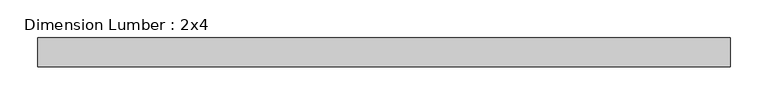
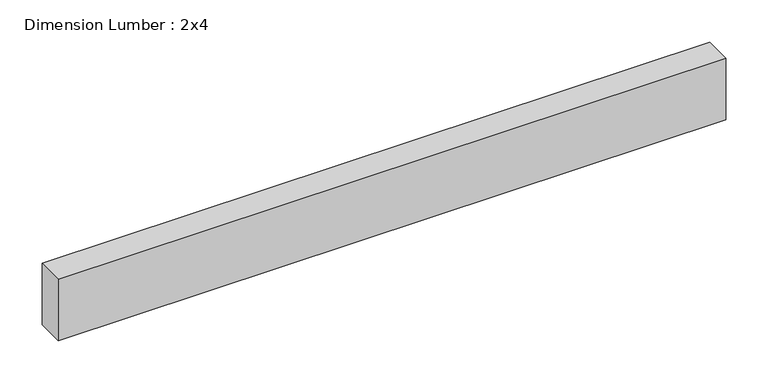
"""IFC4 building model written with IfcOpenShell, lengths in millimetres: beam geometry, Dimension Lumber : 2x4."""

from ifc_helpers import new_model, si_unit, frame, origin, place, context, project, spatial, polyline, outline, extrude, source, transform, mapped, element, save


def dimension_lumber_2x4_02e58853(model_context):
    return source(origin(), model_context, "Body", "SweptSolid", [
        extrude(outline(polyline([(466.7249994, 19.05), (466.7249994, -19.05), (-447.675, -19.05), (-447.675, 19.05), (466.7249994, 19.05)])), frame((0.0, 0.0, -44.45), z_axis=(0.0, 0.0, 1.0), x_axis=(1.0, 0.0, 0.0)), (0.0, 0.0, 1.0), 88.9),
    ])


if __name__ == "__main__":
    model = new_model("IFC4")
    model_context = context("Model", 3, world=origin())
    ifc_project = project(units=[si_unit("LENGTHUNIT", "METRE", prefix="MILLI")], contexts=[model_context])
    site = spatial("IfcSite", under=ifc_project)
    building = spatial("IfcBuilding", under=site)
    placement = place(None, origin())
    dimension_lumber_2x4_shape = dimension_lumber_2x4_02e58853(model_context)
    element("IfcBeam", 1, ObjectType="Dimension Lumber : 2x4", at=placement, inside=building, context=model_context, shape_type="MappedRepresentation", body=[
        mapped(dimension_lumber_2x4_shape, transform((0.0, 0.0, 0.0), x_axis=(1.0, 0.0, 0.0), y_axis=(0.0, 1.0, 0.0), z_axis=(0.0, 0.0, 1.0))),
    ])
    save(model, "model.ifc")
